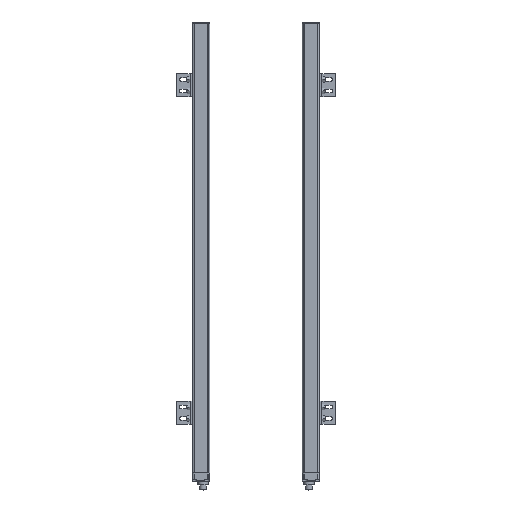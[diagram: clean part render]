
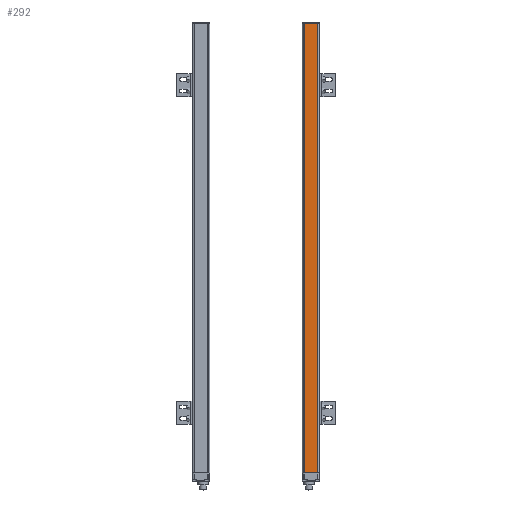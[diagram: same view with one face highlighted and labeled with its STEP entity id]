
A CAD part, top view. The second image highlights one B-rep face of the part: STEP entity #292.
In plain terms, the highlighted planar face has unit normal (0, 0, 1).
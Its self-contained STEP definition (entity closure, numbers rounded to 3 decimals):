
#292 = ADVANCED_FACE( '', ( #710 ), #711, .F. );
#710 = FACE_OUTER_BOUND( '', #1428, .T. );
#711 = PLANE( '', #1429 );
#1428 = EDGE_LOOP( '', ( #2730, #2731, #2732, #2733 ) );
#1429 = AXIS2_PLACEMENT_3D( '', #2734, #2735, #2736 );
#2730 = ORIENTED_EDGE( '', *, *, #4987, .T. );
#2731 = ORIENTED_EDGE( '', *, *, #4903, .T. );
#2732 = ORIENTED_EDGE( '', *, *, #4986, .F. );
#2733 = ORIENTED_EDGE( '', *, *, #4768, .F. );
#2734 = CARTESIAN_POINT( '', ( 3.66, 797.5, 14.01 ) );
#2735 = DIRECTION( '', ( 0., 0., -1. ) );
#2736 = DIRECTION( '', ( -1., 0., 0. ) );
#4768 = EDGE_CURVE( '', #5721, #5723, #5724, .T. );
#4903 = EDGE_CURVE( '', #5977, #5975, #5978, .T. );
#4986 = EDGE_CURVE( '', #5723, #5975, #6105, .T. );
#4987 = EDGE_CURVE( '', #5721, #5977, #6106, .T. );
#5721 = VERTEX_POINT( '', #7298 );
#5723 = VERTEX_POINT( '', #7300 );
#5724 = LINE( '', #7301, #7302 );
#5975 = VERTEX_POINT( '', #7626 );
#5977 = VERTEX_POINT( '', #7628 );
#5978 = LINE( '', #7629, #7630 );
#6105 = LINE( '', #7815, #7816 );
#6106 = LINE( '', #7817, #7818 );
#7298 = CARTESIAN_POINT( '', ( 3.66, 794.5, 14.01 ) );
#7300 = CARTESIAN_POINT( '', ( 27.672, 794.5, 14.01 ) );
#7301 = CARTESIAN_POINT( '', ( 3.66, 794.5, 14.01 ) );
#7302 = VECTOR( '', #9161, 1000. );
#7626 = CARTESIAN_POINT( '', ( 27.672, 14., 14.01 ) );
#7628 = CARTESIAN_POINT( '', ( 3.66, 14., 14.01 ) );
#7629 = CARTESIAN_POINT( '', ( 3.66, 14., 14.01 ) );
#7630 = VECTOR( '', #9418, 1000. );
#7815 = CARTESIAN_POINT( '', ( 27.672, 797.5, 14.01 ) );
#7816 = VECTOR( '', #9549, 1000. );
#7817 = CARTESIAN_POINT( '', ( 3.66, 797.5, 14.01 ) );
#7818 = VECTOR( '', #9550, 1000. );
#9161 = DIRECTION( '', ( 1., 0., 0. ) );
#9418 = DIRECTION( '', ( 1., 0., 0. ) );
#9549 = DIRECTION( '', ( 0., -1., 0. ) );
#9550 = DIRECTION( '', ( 0., -1., 0. ) );
